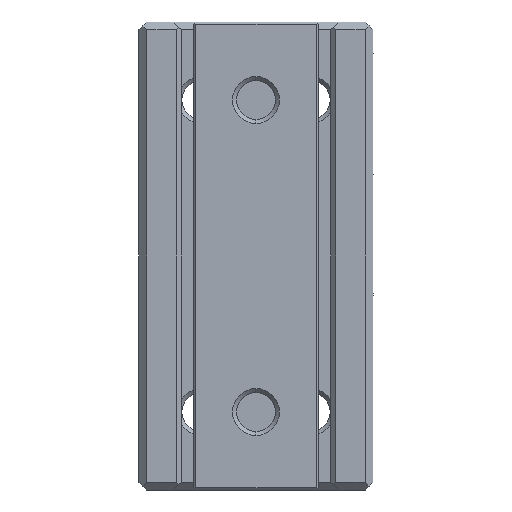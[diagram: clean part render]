
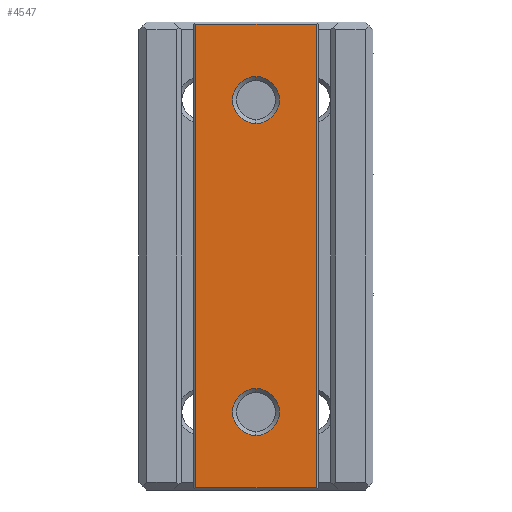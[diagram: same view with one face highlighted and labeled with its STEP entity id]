
A CAD part, front view. The second image highlights one B-rep face of the part: STEP entity #4547.
In plain terms, the highlighted planar face has unit normal (0, -1, 0).
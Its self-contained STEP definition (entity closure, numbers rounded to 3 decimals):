
#4380 = EDGE_CURVE ( 'NONE', #7538, #7514, #11801, .T. ) ;
#4391 = EDGE_CURVE ( 'NONE', #7473, #7552, #11821, .T. ) ;
#4399 = EDGE_CURVE ( 'NONE', #7514, #7538, #11832, .T. ) ;
#4400 = EDGE_CURVE ( 'NONE', #7519, #7536, #9378, .T. ) ;
#4401 = EDGE_CURVE ( 'NONE', #7536, #7537, #9382, .T. ) ;
#4402 = EDGE_CURVE ( 'NONE', #7528, #7537, #9389, .T. ) ;
#4403 = EDGE_CURVE ( 'NONE', #7528, #7519, #9381, .T. ) ;
#4404 = EDGE_CURVE ( 'NONE', #7552, #7473, #11840, .T. ) ;
#4547 = ADVANCED_FACE ( 'NONE', ( #5554, #5556, #5558 ), #5559, .F. ) ;
#5551 = DIRECTION ( 'NONE',  ( 0., 1., 0. ) ) ;
#5554 = FACE_BOUND ( 'NONE', #7398, .T. ) ;
#5555 = CARTESIAN_POINT ( 'NONE',  ( -3.85, -0.5, 24.179 ) ) ;
#5556 = FACE_OUTER_BOUND ( 'NONE', #7423, .T. ) ;
#5558 = FACE_BOUND ( 'NONE', #7376, .T. ) ;
#5559 = PLANE ( 'NONE',  #7193 ) ;
#5560 = DIRECTION ( 'NONE',  ( 0., 0., 1. ) ) ;
#5864 = CARTESIAN_POINT ( 'NONE',  ( 0., -0.5, 8.5 ) ) ;
#5905 = CARTESIAN_POINT ( 'NONE',  ( 0., -0.5, -8.5 ) ) ;
#5910 = CARTESIAN_POINT ( 'NONE',  ( -3.85, -0.5, 14.85 ) ) ;
#5919 = CARTESIAN_POINT ( 'NONE',  ( 3.85, -0.5, 14.85 ) ) ;
#5927 = CARTESIAN_POINT ( 'NONE',  ( -3.85, -0.5, -14.85 ) ) ;
#5928 = CARTESIAN_POINT ( 'NONE',  ( 3.85, -0.5, -14.85 ) ) ;
#5929 = CARTESIAN_POINT ( 'NONE',  ( 0., -0.5, -11.5 ) ) ;
#5943 = CARTESIAN_POINT ( 'NONE',  ( 0., -0.5, 11.5 ) ) ;
#7193 = AXIS2_PLACEMENT_3D ( 'NONE', #5555, #5551, #5560 ) ;
#7376 = EDGE_LOOP ( 'NONE', ( #11295, #11296 ) ) ;
#7398 = EDGE_LOOP ( 'NONE', ( #11289, #11290 ) ) ;
#7423 = EDGE_LOOP ( 'NONE', ( #11291, #11292, #11293, #11294 ) ) ;
#7473 = VERTEX_POINT ( 'NONE', #5864 ) ;
#7514 = VERTEX_POINT ( 'NONE', #5905 ) ;
#7519 = VERTEX_POINT ( 'NONE', #5910 ) ;
#7528 = VERTEX_POINT ( 'NONE', #5919 ) ;
#7536 = VERTEX_POINT ( 'NONE', #5927 ) ;
#7537 = VERTEX_POINT ( 'NONE', #5928 ) ;
#7538 = VERTEX_POINT ( 'NONE', #5929 ) ;
#7552 = VERTEX_POINT ( 'NONE', #5943 ) ;
#9322 = CARTESIAN_POINT ( 'NONE',  ( 0., -0.5, -10. ) ) ;
#9323 = DIRECTION ( 'NONE',  ( 0., 1., 0. ) ) ;
#9324 = DIRECTION ( 'NONE',  ( 0., 0., 1. ) ) ;
#9358 = CARTESIAN_POINT ( 'NONE',  ( 0., -0.5, 10. ) ) ;
#9359 = DIRECTION ( 'NONE',  ( 0., 1., 0. ) ) ;
#9360 = DIRECTION ( 'NONE',  ( 0., 0., 1. ) ) ;
#9373 = CARTESIAN_POINT ( 'NONE',  ( -3.85, -0.5, 24.179 ) ) ;
#9378 = LINE ( 'NONE', #9373, #11835 ) ;
#9381 = LINE ( 'NONE', #9392, #11837 ) ;
#9382 = LINE ( 'NONE', #9387, #11834 ) ;
#9383 = CARTESIAN_POINT ( 'NONE',  ( 0., -0.5, -10. ) ) ;
#9384 = DIRECTION ( 'NONE',  ( 0., 1., 0. ) ) ;
#9385 = DIRECTION ( 'NONE',  ( 0., 0., 1. ) ) ;
#9386 = DIRECTION ( 'NONE',  ( 0., 0., -1. ) ) ;
#9387 = CARTESIAN_POINT ( 'NONE',  ( 3.85, -0.5, -14.85 ) ) ;
#9388 = DIRECTION ( 'NONE',  ( 1., 0., 0. ) ) ;
#9389 = LINE ( 'NONE', #9390, #11838 ) ;
#9390 = CARTESIAN_POINT ( 'NONE',  ( 3.85, -0.5, 24.179 ) ) ;
#9391 = DIRECTION ( 'NONE',  ( 0., 0., -1. ) ) ;
#9392 = CARTESIAN_POINT ( 'NONE',  ( -3.85, -0.5, 14.85 ) ) ;
#9393 = DIRECTION ( 'NONE',  ( -1., 0., 0. ) ) ;
#9396 = CARTESIAN_POINT ( 'NONE',  ( 0., -0.5, 10. ) ) ;
#9397 = DIRECTION ( 'NONE',  ( 0., 1., 0. ) ) ;
#9398 = DIRECTION ( 'NONE',  ( 0., 0., 1. ) ) ;
#11289 = ORIENTED_EDGE ( 'NONE', *, *, #4380, .T. ) ;
#11290 = ORIENTED_EDGE ( 'NONE', *, *, #4399, .T. ) ;
#11291 = ORIENTED_EDGE ( 'NONE', *, *, #4400, .T. ) ;
#11292 = ORIENTED_EDGE ( 'NONE', *, *, #4401, .T. ) ;
#11293 = ORIENTED_EDGE ( 'NONE', *, *, #4402, .F. ) ;
#11294 = ORIENTED_EDGE ( 'NONE', *, *, #4403, .T. ) ;
#11295 = ORIENTED_EDGE ( 'NONE', *, *, #4391, .T. ) ;
#11296 = ORIENTED_EDGE ( 'NONE', *, *, #4404, .T. ) ;
#11801 = CIRCLE ( 'NONE', #11811, 1.5 ) ;
#11811 = AXIS2_PLACEMENT_3D ( 'NONE', #9322, #9323, #9324 ) ;
#11821 = CIRCLE ( 'NONE', #11825, 1.5 ) ;
#11825 = AXIS2_PLACEMENT_3D ( 'NONE', #9358, #9359, #9360 ) ;
#11832 = CIRCLE ( 'NONE', #11836, 1.5 ) ;
#11834 = VECTOR ( 'NONE', #9388, 1000. ) ;
#11835 = VECTOR ( 'NONE', #9386, 1000. ) ;
#11836 = AXIS2_PLACEMENT_3D ( 'NONE', #9383, #9384, #9385 ) ;
#11837 = VECTOR ( 'NONE', #9393, 1000. ) ;
#11838 = VECTOR ( 'NONE', #9391, 1000. ) ;
#11840 = CIRCLE ( 'NONE', #11842, 1.5 ) ;
#11842 = AXIS2_PLACEMENT_3D ( 'NONE', #9396, #9397, #9398 ) ;
